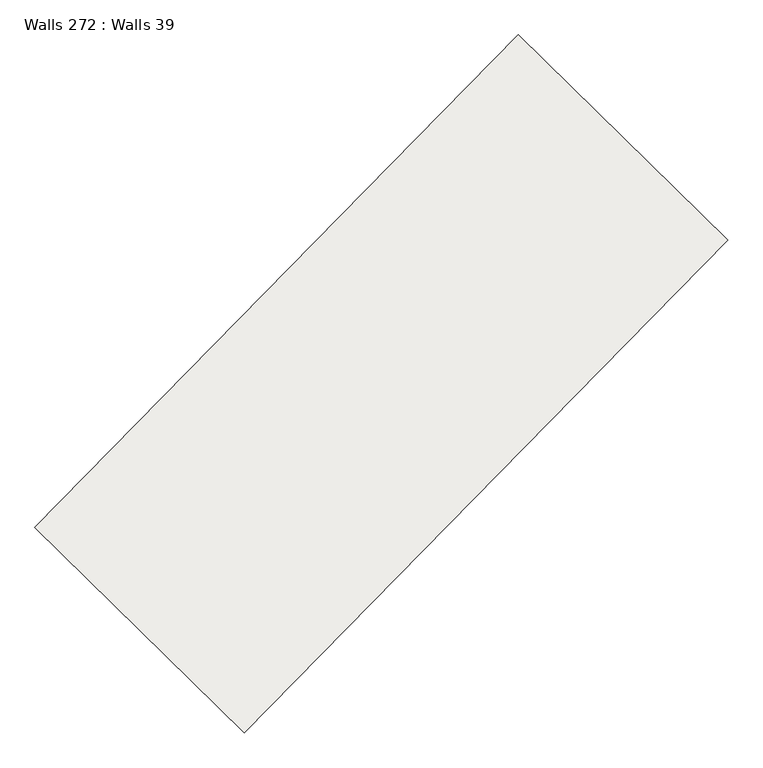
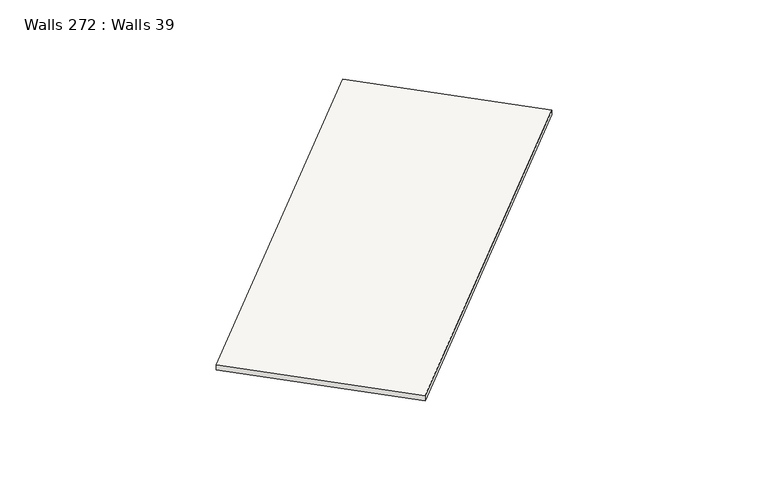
"""IFC4 building model written with IfcOpenShell, lengths in millimetres: slab geometry, Walls 272 : Walls 39."""

from ifc_helpers import new_model, si_unit, frame, origin, place, context, project, spatial, polyline, outline, extrude, source, transform, mapped, element, save


def walls_272_walls_39_62ff5df0(model_context):
    return source(origin(), model_context, "Body", "SweptSolid", [
        extrude(outline(polyline([(-50.0, 0.0), (50.0, 0.0), (-40.0, -8700.000001), (-140.0, -8700.000001), (-50.0, 0.0)])), frame((-146196.7065576, -308322.325425, 635920.0), z_axis=(-0.7137361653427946, 0.7004146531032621, 0.0), x_axis=(0.0, 0.0, 1.0)), (0.0, 0.0, 1.0), 3699.999995),
    ])


if __name__ == "__main__":
    model = new_model("IFC4")
    model_context = context("Model", 3, world=origin())
    ifc_project = project(units=[si_unit("LENGTHUNIT", "METRE", prefix="MILLI")], contexts=[model_context])
    site = spatial("IfcSite", under=ifc_project)
    building = spatial("IfcBuilding", under=site)
    placement = place(None, origin())
    walls_272_walls_39_shape = walls_272_walls_39_62ff5df0(model_context)
    element("IfcSlab", 1, ObjectType="Walls 272 : Walls 39", at=placement, inside=building, context=model_context, shape_type="MappedRepresentation", body=[
        mapped(walls_272_walls_39_shape, transform((0.0, 0.0, 0.0), x_axis=(1.0, 0.0, 0.0), y_axis=(0.0, 1.0, 0.0), z_axis=(0.0, 0.0, 1.0))),
    ])
    save(model, "model.ifc")
